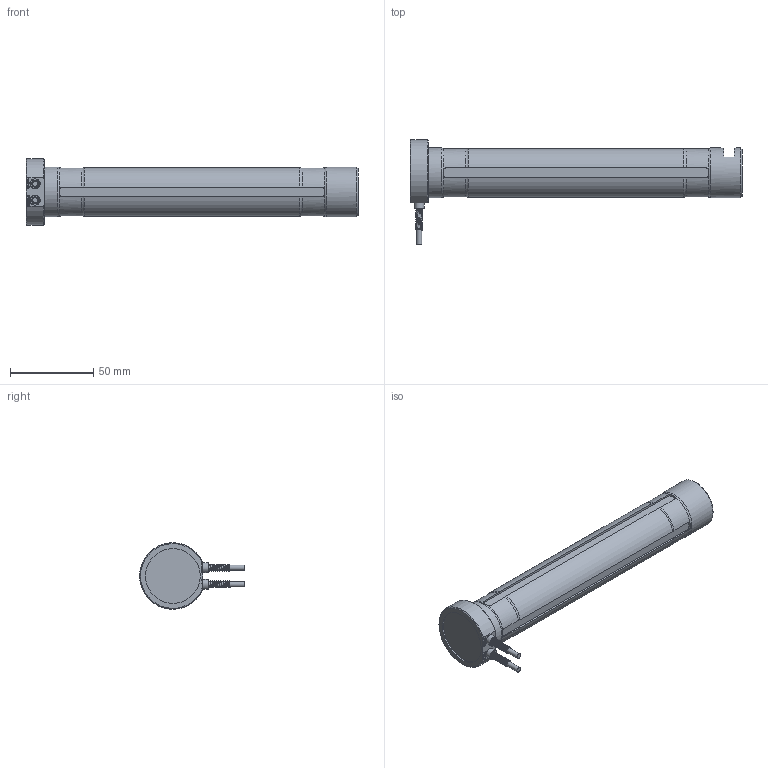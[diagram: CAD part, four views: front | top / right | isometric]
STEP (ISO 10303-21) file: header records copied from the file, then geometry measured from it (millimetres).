
FILE_DESCRIPTION(/* description */ ('Alibre Inc.'),/* implementation_level */ '2;1');
FILE_NAME(/* name */ 'export-89436F86-3265-40E2-8032-679D5D20AC88',/* time_stamp */ '2020-01-14T13:08:59+01:00',/* author */ (''),/* organization */ (''),/* preprocessor_version */ 'ST-DEVELOPER v17',/* originating_system */ 'Alibre',/* authorisation */ '');
FILE_SCHEMA (('CONFIG_CONTROL_DESIGN'));
Length unit declared in the file: centimetre
Bounding box: 200 x 62.92 x 39.88 mm (x, y, z)
Volume: 139913.9 mm3; surface area: 24996.1 mm2
Topology: 7 solids, 7 shells, 380 faces, 989 edges, 647 vertices
Faces by surface type: plane 191, bspline 102, cylinder 62, torus 14, cone 11
Full cylindrical faces by diameter (mm): 3.15 x2, 3.3 x2, 4.2 x2, 5 x4, 6 x2, 30 x2, 33 x1
Entity records: 23030 total; most frequent: CARTESIAN_POINT 14808, ORIENTED_EDGE 1810, DIRECTION 1059, EDGE_CURVE 905, VERTEX_POINT 608, VECTOR 552, LINE 552, EDGE_LOOP 393
